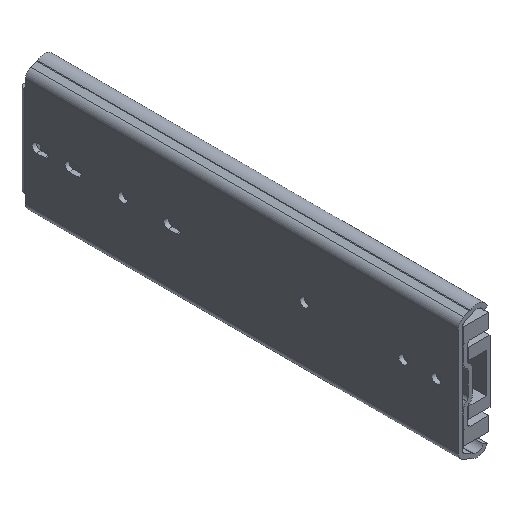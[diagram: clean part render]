
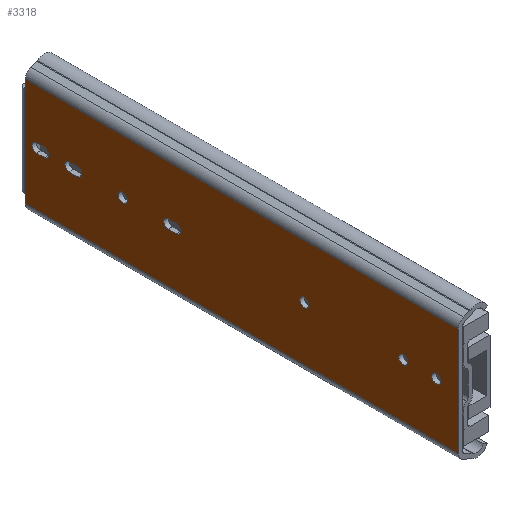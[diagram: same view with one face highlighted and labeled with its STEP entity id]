
A CAD part, isometric view. The second image highlights one B-rep face of the part: STEP entity #3318.
In plain terms, the highlighted planar face has unit normal (-1, 0, 0).
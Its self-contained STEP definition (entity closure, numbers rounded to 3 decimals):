
#128=PLANE('',#4020);
#252=CIRCLE('',#3983,2.6);
#254=CIRCLE('',#3986,2.6);
#256=CIRCLE('',#3989,2.6);
#259=CIRCLE('',#3994,2.6);
#261=CIRCLE('',#3998,2.6);
#262=CIRCLE('',#4000,2.6);
#265=CIRCLE('',#4005,2.619);
#267=CIRCLE('',#4009,2.619);
#268=CIRCLE('',#4012,2.6);
#271=CIRCLE('',#4017,2.6);
#1168=ORIENTED_EDGE('',*,*,#1692,.F.);
#1169=ORIENTED_EDGE('',*,*,#1666,.T.);
#1170=ORIENTED_EDGE('',*,*,#1670,.F.);
#1171=ORIENTED_EDGE('',*,*,#1690,.T.);
#1172=ORIENTED_EDGE('',*,*,#1684,.T.);
#1173=ORIENTED_EDGE('',*,*,#1682,.T.);
#1174=ORIENTED_EDGE('',*,*,#1679,.T.);
#1175=ORIENTED_EDGE('',*,*,#1676,.T.);
#1176=ORIENTED_EDGE('',*,*,#1659,.F.);
#1177=ORIENTED_EDGE('',*,*,#1656,.F.);
#1178=ORIENTED_EDGE('',*,*,#1665,.F.);
#1179=ORIENTED_EDGE('',*,*,#1662,.F.);
#1180=ORIENTED_EDGE('',*,*,#1652,.F.);
#1181=ORIENTED_EDGE('',*,*,#1650,.F.);
#1182=ORIENTED_EDGE('',*,*,#1648,.F.);
#1183=ORIENTED_EDGE('',*,*,#1685,.F.);
#1184=ORIENTED_EDGE('',*,*,#1693,.T.);
#1185=ORIENTED_EDGE('',*,*,#1569,.F.);
#1186=ORIENTED_EDGE('',*,*,#1586,.T.);
#1187=ORIENTED_EDGE('',*,*,#1565,.T.);
#1188=ORIENTED_EDGE('',*,*,#1646,.T.);
#1189=ORIENTED_EDGE('',*,*,#1600,.F.);
#1190=ORIENTED_EDGE('',*,*,#1625,.F.);
#1191=ORIENTED_EDGE('',*,*,#1602,.T.);
#1565=EDGE_CURVE('',#1928,#1933,#2273,.T.);
#1569=EDGE_CURVE('',#1937,#1938,#2275,.T.);
#1586=EDGE_CURVE('',#1937,#1928,#2286,.T.);
#1600=EDGE_CURVE('',#1959,#1958,#2294,.T.);
#1602=EDGE_CURVE('',#1962,#1961,#2295,.T.);
#1625=EDGE_CURVE('',#1962,#1959,#2310,.T.);
#1646=EDGE_CURVE('',#1933,#1958,#2322,.T.);
#1648=EDGE_CURVE('',#1990,#1990,#252,.T.);
#1650=EDGE_CURVE('',#1992,#1992,#254,.T.);
#1652=EDGE_CURVE('',#1994,#1994,#256,.T.);
#1656=EDGE_CURVE('',#1998,#1999,#2326,.T.);
#1659=EDGE_CURVE('',#1999,#2001,#259,.T.);
#1662=EDGE_CURVE('',#2001,#2003,#2330,.T.);
#1665=EDGE_CURVE('',#2003,#1998,#261,.T.);
#1666=EDGE_CURVE('',#2004,#2005,#262,.T.);
#1670=EDGE_CURVE('',#2008,#2005,#2334,.T.);
#1676=EDGE_CURVE('',#2011,#2013,#265,.T.);
#1679=EDGE_CURVE('',#2015,#2011,#2341,.T.);
#1682=EDGE_CURVE('',#2017,#2015,#267,.T.);
#1684=EDGE_CURVE('',#2013,#2017,#2344,.T.);
#1685=EDGE_CURVE('',#2018,#2018,#268,.T.);
#1690=EDGE_CURVE('',#2008,#2021,#271,.T.);
#1692=EDGE_CURVE('',#2004,#2021,#2348,.T.);
#1693=EDGE_CURVE('',#1961,#1938,#2349,.T.);
#1928=VERTEX_POINT('',#5662);
#1933=VERTEX_POINT('',#5671);
#1937=VERTEX_POINT('',#5680);
#1938=VERTEX_POINT('',#5682);
#1958=VERTEX_POINT('',#5738);
#1959=VERTEX_POINT('',#5740);
#1961=VERTEX_POINT('',#5745);
#1962=VERTEX_POINT('',#5747);
#1990=VERTEX_POINT('',#5837);
#1992=VERTEX_POINT('',#5842);
#1994=VERTEX_POINT('',#5847);
#1998=VERTEX_POINT('',#5855);
#1999=VERTEX_POINT('',#5857);
#2001=VERTEX_POINT('',#5863);
#2003=VERTEX_POINT('',#5869);
#2004=VERTEX_POINT('',#5876);
#2005=VERTEX_POINT('',#5877);
#2008=VERTEX_POINT('',#5885);
#2011=VERTEX_POINT('',#5892);
#2013=VERTEX_POINT('',#5896);
#2015=VERTEX_POINT('',#5901);
#2017=VERTEX_POINT('',#5907);
#2018=VERTEX_POINT('',#5915);
#2021=VERTEX_POINT('',#5925);
#2273=LINE('',#5672,#2607);
#2275=LINE('',#5681,#2609);
#2286=LINE('',#5713,#2620);
#2294=LINE('',#5741,#2628);
#2295=LINE('',#5746,#2629);
#2310=LINE('',#5793,#2644);
#2322=LINE('',#5833,#2656);
#2326=LINE('',#5856,#2660);
#2330=LINE('',#5868,#2664);
#2334=LINE('',#5884,#2668);
#2341=LINE('',#5903,#2675);
#2344=LINE('',#5912,#2678);
#2348=LINE('',#5928,#2682);
#2349=LINE('',#5930,#2683);
#2607=VECTOR('',#4692,1000.);
#2609=VECTOR('',#4700,1000.);
#2620=VECTOR('',#4729,1000.);
#2628=VECTOR('',#4757,1000.);
#2629=VECTOR('',#4762,1000.);
#2644=VECTOR('',#4807,1000.);
#2656=VECTOR('',#4853,1000.);
#2660=VECTOR('',#4877,1000.);
#2664=VECTOR('',#4889,1000.);
#2668=VECTOR('',#4907,1000.);
#2675=VECTOR('',#4922,1000.);
#2678=VECTOR('',#4933,1000.);
#2682=VECTOR('',#4953,1000.);
#2683=VECTOR('',#4956,1000.);
#2877=EDGE_LOOP('',(#1168,#1169,#1170,#1171));
#2878=EDGE_LOOP('',(#1172,#1173,#1174,#1175));
#2879=EDGE_LOOP('',(#1176,#1177,#1178,#1179));
#2880=EDGE_LOOP('',(#1180));
#2881=EDGE_LOOP('',(#1181));
#2882=EDGE_LOOP('',(#1182));
#2883=EDGE_LOOP('',(#1183));
#2884=EDGE_LOOP('',(#1184,#1185,#1186,#1187,#1188,#1189,#1190,#1191));
#3079=FACE_BOUND('',#2877,.T.);
#3080=FACE_BOUND('',#2878,.T.);
#3081=FACE_BOUND('',#2879,.T.);
#3082=FACE_BOUND('',#2880,.T.);
#3083=FACE_BOUND('',#2881,.T.);
#3084=FACE_BOUND('',#2882,.T.);
#3085=FACE_BOUND('',#2883,.T.);
#3086=FACE_BOUND('',#2884,.T.);
#3318=ADVANCED_FACE('',(#3079,#3080,#3081,#3082,#3083,#3084,#3085,#3086),
#128,.F.);
#3983=AXIS2_PLACEMENT_3D('',#5836,#4857,#4858);
#3986=AXIS2_PLACEMENT_3D('',#5841,#4863,#4864);
#3989=AXIS2_PLACEMENT_3D('',#5846,#4869,#4870);
#3994=AXIS2_PLACEMENT_3D('',#5862,#4883,#4884);
#3998=AXIS2_PLACEMENT_3D('',#5873,#4895,#4896);
#4000=AXIS2_PLACEMENT_3D('',#5875,#4899,#4900);
#4005=AXIS2_PLACEMENT_3D('',#5897,#4916,#4917);
#4009=AXIS2_PLACEMENT_3D('',#5909,#4928,#4929);
#4012=AXIS2_PLACEMENT_3D('',#5914,#4936,#4937);
#4017=AXIS2_PLACEMENT_3D('',#5924,#4948,#4949);
#4020=AXIS2_PLACEMENT_3D('',#5931,#4957,#4958);
#4692=DIRECTION('',(0.,-1.,0.));
#4700=DIRECTION('',(0.,-1.,0.));
#4729=DIRECTION('',(0.,0.,-1.));
#4757=DIRECTION('',(0.,1.,0.));
#4762=DIRECTION('',(0.,1.,0.));
#4807=DIRECTION('',(0.,0.,-1.));
#4853=DIRECTION('',(0.,0.,-1.));
#4857=DIRECTION('',(-1.,0.,0.));
#4858=DIRECTION('',(0.,1.,0.));
#4863=DIRECTION('',(-1.,0.,0.));
#4864=DIRECTION('',(0.,1.,0.));
#4869=DIRECTION('',(-1.,0.,0.));
#4870=DIRECTION('',(0.,1.,0.));
#4877=DIRECTION('',(0.,-1.,0.));
#4883=DIRECTION('',(-1.,0.,0.));
#4884=DIRECTION('',(0.,1.,0.));
#4889=DIRECTION('',(0.,1.,0.));
#4895=DIRECTION('',(-1.,0.,0.));
#4896=DIRECTION('',(0.,-1.,0.));
#4899=DIRECTION('',(1.,0.,0.));
#4900=DIRECTION('',(0.,0.,-1.));
#4907=DIRECTION('',(0.,1.,0.));
#4916=DIRECTION('',(1.,0.,0.));
#4917=DIRECTION('',(0.,0.,-1.));
#4922=DIRECTION('',(0.,1.,0.));
#4928=DIRECTION('',(1.,0.,0.));
#4929=DIRECTION('',(0.,0.,-1.));
#4933=DIRECTION('',(0.,-1.,0.));
#4936=DIRECTION('',(-1.,0.,0.));
#4937=DIRECTION('',(0.,1.,0.));
#4948=DIRECTION('',(1.,0.,0.));
#4949=DIRECTION('',(0.,0.,-1.));
#4953=DIRECTION('',(0.,-1.,0.));
#4956=DIRECTION('',(0.,0.,-1.));
#4957=DIRECTION('',(1.,0.,0.));
#4958=DIRECTION('',(0.,0.,-1.));
#5662=CARTESIAN_POINT('',(0.,250.5,-26.15));
#5671=CARTESIAN_POINT('',(0.,250.,-26.15));
#5672=CARTESIAN_POINT('',(0.,250.5,-26.15));
#5680=CARTESIAN_POINT('',(0.,250.5,26.15));
#5681=CARTESIAN_POINT('',(0.,250.5,26.15));
#5682=CARTESIAN_POINT('',(0.,250.,26.15));
#5713=CARTESIAN_POINT('',(0.,250.5,26.15));
#5738=CARTESIAN_POINT('',(0.,250.,-31.142));
#5740=CARTESIAN_POINT('',(0.,0.,-31.142));
#5741=CARTESIAN_POINT('',(0.,0.,-31.142));
#5745=CARTESIAN_POINT('',(0.,250.,31.132));
#5746=CARTESIAN_POINT('',(0.,0.,31.132));
#5747=CARTESIAN_POINT('',(0.,0.,31.132));
#5793=CARTESIAN_POINT('',(0.,0.,31.132));
#5833=CARTESIAN_POINT('',(0.,250.,31.132));
#5836=CARTESIAN_POINT('',(0.,31.75,-0.006));
#5837=CARTESIAN_POINT('',(0.,34.35,-0.006));
#5841=CARTESIAN_POINT('',(0.,88.9,-0.006));
#5842=CARTESIAN_POINT('',(0.,91.5,-0.006));
#5846=CARTESIAN_POINT('',(0.,193.7,-0.006));
#5847=CARTESIAN_POINT('',(0.,196.3,-0.006));
#5855=CARTESIAN_POINT('',(0.,167.4,-2.605));
#5856=CARTESIAN_POINT('',(0.,167.4,-2.605));
#5857=CARTESIAN_POINT('',(0.,162.8,-2.605));
#5862=CARTESIAN_POINT('',(0.,162.8,-0.005));
#5863=CARTESIAN_POINT('',(0.,162.8,2.595));
#5868=CARTESIAN_POINT('',(0.,167.4,2.595));
#5869=CARTESIAN_POINT('',(0.,167.4,2.595));
#5873=CARTESIAN_POINT('',(0.,167.4,-0.005));
#5875=CARTESIAN_POINT('',(0.,243.6,-0.006));
#5876=CARTESIAN_POINT('',(0.,243.6,-2.606));
#5877=CARTESIAN_POINT('',(0.,243.6,2.594));
#5884=CARTESIAN_POINT('',(0.,0.,2.594));
#5885=CARTESIAN_POINT('',(0.,239.,2.594));
#5892=CARTESIAN_POINT('',(0.,224.899,-2.606));
#5896=CARTESIAN_POINT('',(0.,224.899,2.594));
#5897=CARTESIAN_POINT('',(0.,224.581,-0.006));
#5901=CARTESIAN_POINT('',(0.,219.701,-2.606));
#5903=CARTESIAN_POINT('',(0.,0.,-2.606));
#5907=CARTESIAN_POINT('',(0.,219.701,2.594));
#5909=CARTESIAN_POINT('',(0.,220.019,-0.006));
#5912=CARTESIAN_POINT('',(0.,0.,2.594));
#5914=CARTESIAN_POINT('',(0.,12.7,-0.006));
#5915=CARTESIAN_POINT('',(0.,15.3,-0.006));
#5924=CARTESIAN_POINT('',(0.,239.,-0.006));
#5925=CARTESIAN_POINT('',(0.,239.,-2.606));
#5928=CARTESIAN_POINT('',(0.,0.,-2.606));
#5930=CARTESIAN_POINT('',(0.,250.,31.132));
#5931=CARTESIAN_POINT('',(0.,0.,31.132));
